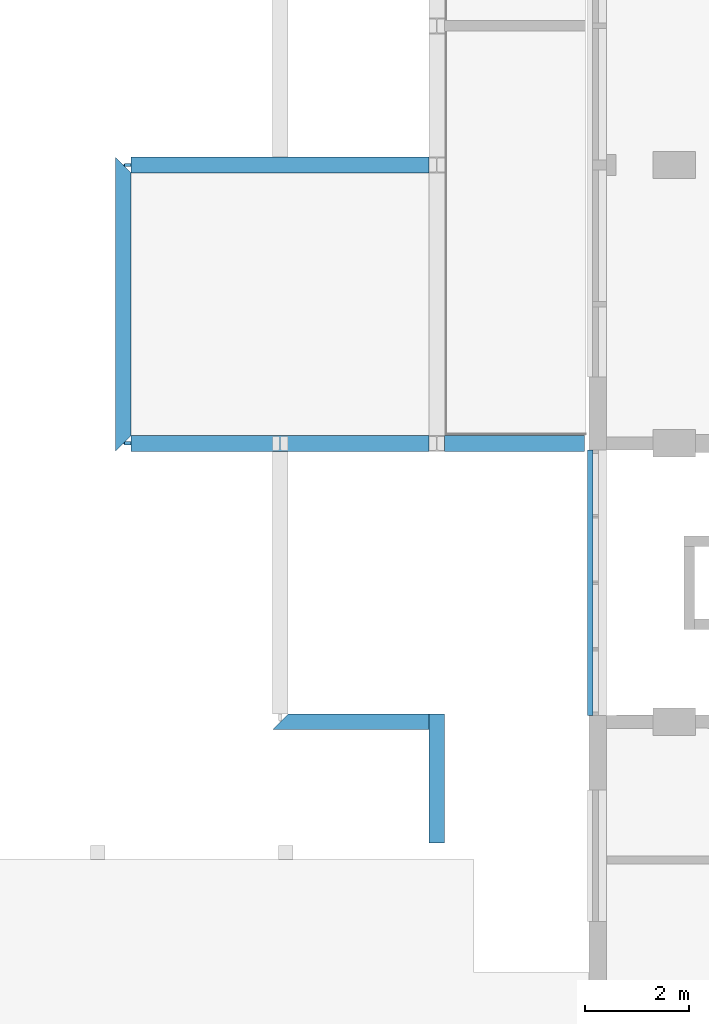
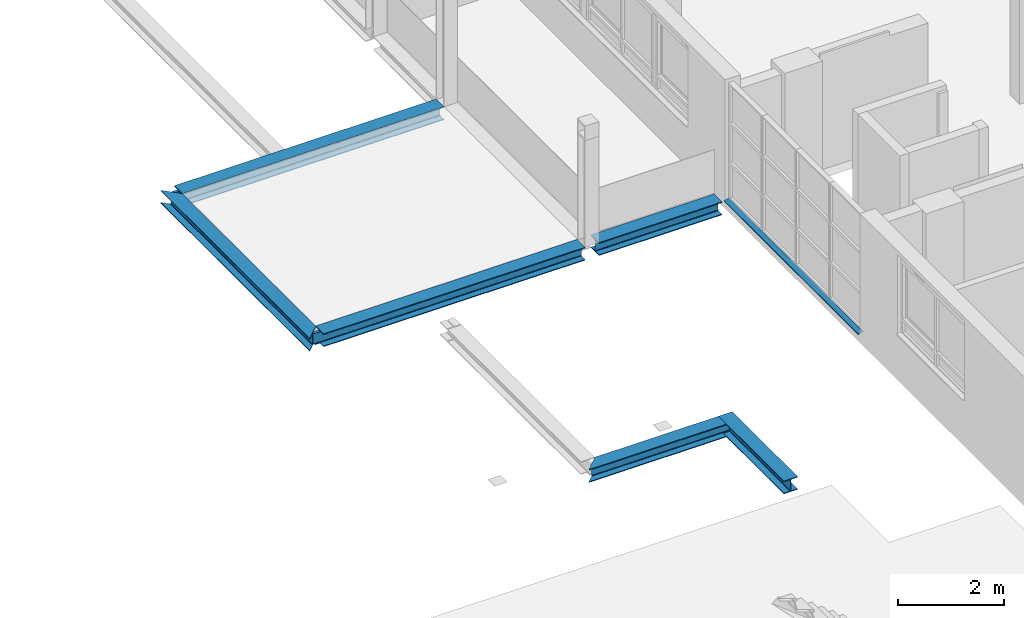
# One storey, part 6 of 22: 7 beams.
"""IFC2X3 building model written with IfcOpenShell, lengths in millimetres."""

from ifc_helpers import new_model, entity, si_unit, converted_unit, derived_unit, money_unit, direction, frame, origin_with_axes, place, context, subcontext, project, spatial, faceted_brep, material, type_object, element, save


model = new_model("IFC2X3")

# Units and contexts
model_context = context("Model", 3, precision=0.01, world=origin_with_axes(), true_north=direction((0.0, 1.0)))
body_context = subcontext(model_context, "Body", "Model", "MODEL_VIEW")
ifc_project = project(units=[si_unit("LENGTHUNIT", "METRE", prefix="MILLI"), si_unit("AREAUNIT", "SQUARE_METRE"), si_unit("VOLUMEUNIT", "CUBIC_METRE"), converted_unit("PLANEANGLEUNIT", "DEGREE", entity("IfcPlaneAngleMeasure", 0.0174532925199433), si_unit("PLANEANGLEUNIT", "RADIAN"), dimensions=[0, 0, 0, 0, 0, 0, 0]), money_unit("EUR"), converted_unit("TIMEUNIT", "Year", entity("IfcTimeMeasure", 31557600.0), si_unit("TIMEUNIT", "SECOND"), dimensions=[0, 0, 1, 0, 0, 0, 0]), si_unit("MASSUNIT", "GRAM", prefix="KILO"), si_unit("THERMODYNAMICTEMPERATUREUNIT", "DEGREE_CELSIUS"), si_unit("LUMINOUSINTENSITYUNIT", "LUMEN"), si_unit("ENERGYUNIT", "JOULE", prefix="MEGA"), derived_unit("THERMALCONDUCTANCEUNIT", [(si_unit("POWERUNIT", "WATT"), 1), (si_unit("LENGTHUNIT", "METRE"), -1), (si_unit("THERMODYNAMICTEMPERATUREUNIT", "KELVIN"), -1)]), derived_unit("SPECIFICHEATCAPACITYUNIT", [(si_unit("ENERGYUNIT", "JOULE"), 1), (si_unit("MASSUNIT", "GRAM", prefix="KILO"), -1), (si_unit("THERMODYNAMICTEMPERATUREUNIT", "KELVIN"), -1)]), derived_unit("MASSDENSITYUNIT", [(si_unit("MASSUNIT", "GRAM", prefix="KILO"), 1), (si_unit("VOLUMEUNIT", "CUBIC_METRE"), -1)])], contexts=[model_context])

# Site, building, storey
site_placement = place(None, origin_with_axes())
site = spatial("IfcSite", under=ifc_project, at=site_placement, Name="Site", CompositionType="ELEMENT")
building_placement = place(site_placement, origin_with_axes())
building = spatial("IfcBuilding", under=site, at=building_placement, Name="Naam gebouw", CompositionType="ELEMENT")
storey_placement = place(building_placement, frame((0.0, 0.0, 8690.0), z_axis=(0.0, 0.0, 1.0), x_axis=(1.0, 0.0, 0.0)))
storey = spatial("IfcBuildingStorey", under=building, at=storey_placement, Name="2e verdieping V", CompositionType="ELEMENT", Elevation=8690.0)

# Beams
ifc_material_1 = material(Name="Metaal - Aluminium")
beam_type_1 = type_object("IfcBeamType", Name="Lekdorpel 107 x 49", PredefinedType="BEAM")
beam_1_placement = place(storey_placement, frame((20206.00000000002, 27830.91242510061, 0.0), z_axis=(0.0, 0.0, 1.0), x_axis=(-1.0, 0.0, 0.0)))
element("IfcBeam", 1, at=beam_1_placement, inside=storey, type_object=beam_type_1, material=ifc_material_1, Name="_Balk-x", ObjectType="BEAM", context=body_context, shape_type="Brep", body=[
    faceted_brep([(27.99999999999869, 0.0, -1.678199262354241), (27.99999999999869, 5080.000000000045, -1.678199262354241), (27.99999999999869, 5080.000000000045, -16.53589838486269), (27.99999999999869, 0.0, -16.53589838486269), (-77.00000000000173, 0.0, 16.83613371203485), (-77.00000000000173, 5080.000000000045, 16.83613371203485), (-77.00000000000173, 5080.000000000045, 28.51433297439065), (-74.99999999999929, 5080.000000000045, 28.51433297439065), (-74.99999999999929, 5080.000000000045, 18.51433297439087), (30.00000000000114, 5080.000000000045, 0.0), (30.00000000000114, 5080.000000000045, -19.99999999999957), (19.99999999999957, 5080.000000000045, -14.22649730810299), (19.99999999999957, 5080.000000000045, -11.91709623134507), (19.99999999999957, 0.0, -11.91709623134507), (19.99999999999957, 0.0, -14.22649730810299), (30.00000000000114, 0.0, -19.99999999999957), (30.00000000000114, 0.0, 0.0), (-74.99999999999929, 0.0, 18.51433297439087), (-74.99999999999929, 0.0, 28.51433297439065), (-77.00000000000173, 0.0, 28.51433297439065)], [[[0, 1, 2, 3]], [[4, 5, 1, 0]], [[2, 1, 5, 6, 7, 8, 9, 10, 11, 12]], [[3, 2, 12, 13]], [[4, 0, 3, 13, 14, 15, 16, 17, 18, 19]], [[19, 6, 5, 4]], [[18, 7, 6, 19]], [[17, 8, 7, 18]], [[16, 9, 8, 17]], [[15, 10, 9, 16]], [[14, 11, 10, 15]], [[13, 12, 11, 14]]]),
])
ifc_material_2 = material(Name="staal geanodiseerd RAL 7024")
beam_type_2 = type_object("IfcBeamType", Name="NLRS_28_SF_LIB_balk HE_generiek_ISR:balk HE_gen_HEB300", PredefinedType="BEAM")
beam_2_placement = place(storey_placement, frame((20122.00000005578, 27955.91242634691, -150.0000000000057), z_axis=(0.0, 0.0, 1.0), x_axis=(0.0, 1.0, 0.0)))
element("IfcBeam", 2, at=beam_2_placement, inside=storey, type_object=beam_type_2, material=ifc_material_2, Name="NLRS_28_SF_LIB_balk HE_generiek_ISR:balk HE_gen_HEB300", ObjectType="BEAM", context=body_context, shape_type="Brep", body=[
    faceted_brep([(-150.0000000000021, 0.0, 150.0000000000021), (-150.0000000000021, 2679.999999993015, 150.0000000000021), (-150.0000000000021, 2679.999999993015, 131.000000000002), (-150.0000000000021, 0.0, 131.000000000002), (149.9999999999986, 0.0, 150.0000000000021), (149.9999999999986, 2679.999999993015, 150.0000000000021), (149.9999999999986, 2679.999999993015, 131.000000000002), (32.50000000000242, 2679.999999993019, 131.000000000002), (19.0000000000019, 2679.999999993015, 127.382685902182), (9.11731409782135, 2679.999999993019, 117.5000000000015), (5.49999999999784, 2679.999999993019, 104.000000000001), (5.49999999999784, 2679.999999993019, -103.9999999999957), (9.11731409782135, 2679.999999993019, -117.4999999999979), (19.0000000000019, 2679.999999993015, -127.3826859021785), (32.50000000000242, 2679.999999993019, -130.9999999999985), (149.9999999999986, 2679.999999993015, -130.9999999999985), (149.9999999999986, 2679.999999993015, -149.9999999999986), (-150.0000000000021, 2679.999999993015, -149.9999999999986), (-150.0000000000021, 2679.999999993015, -130.9999999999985), (-32.50000000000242, 2679.999999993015, -130.9999999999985), (-19.0000000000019, 2679.999999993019, -127.3826859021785), (-9.11731409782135, 2679.999999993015, -117.4999999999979), (-5.500000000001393, 2679.999999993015, -103.9999999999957), (-5.500000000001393, 2679.999999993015, 104.000000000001), (-9.11731409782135, 2679.999999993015, 117.5000000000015), (-19.0000000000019, 2679.999999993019, 127.382685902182), (-32.50000000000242, 2679.999999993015, 131.000000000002), (-32.50000000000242, 0.0, 131.000000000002), (-19.0000000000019, 0.0, 127.382685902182), (-9.11731409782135, 0.0, 117.5000000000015), (-5.500000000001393, 0.0, 104.000000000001), (-5.500000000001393, 0.0, -103.9999999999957), (-9.11731409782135, 0.0, -117.4999999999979), (-19.0000000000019, 0.0, -127.3826859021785), (-32.50000000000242, 0.0, -130.9999999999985), (-150.0000000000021, 0.0, -130.9999999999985), (-150.0000000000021, 0.0, -149.9999999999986), (149.9999999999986, 0.0, -149.9999999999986), (149.9999999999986, 0.0, -130.9999999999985), (32.50000000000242, 0.0, -130.9999999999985), (19.0000000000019, 0.0, -127.3826859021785), (9.11731409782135, 0.0, -117.4999999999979), (5.49999999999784, 0.0, -103.9999999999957), (5.49999999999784, 0.0, 104.000000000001), (9.11731409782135, 0.0, 117.5000000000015), (19.0000000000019, 0.0, 127.382685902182), (32.50000000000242, 0.0, 131.000000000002), (149.9999999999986, 0.0, 131.000000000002)], [[[0, 1, 2, 3]], [[4, 5, 1, 0]], [[2, 1, 5, 6, 7, 8, 9, 10, 11, 12, 13, 14, 15, 16, 17, 18, 19, 20, 21, 22, 23, 24, 25, 26]], [[3, 2, 26, 27]], [[4, 0, 3, 27, 28, 29, 30, 31, 32, 33, 34, 35, 36, 37, 38, 39, 40, 41, 42, 43, 44, 45, 46, 47]], [[47, 6, 5, 4]], [[46, 7, 6, 47]], [[45, 8, 7, 46]], [[44, 9, 8, 45]], [[43, 10, 9, 44]], [[42, 11, 10, 43]], [[41, 12, 11, 42]], [[40, 13, 12, 41]], [[39, 14, 13, 40]], [[38, 15, 14, 39]], [[37, 16, 15, 38]], [[36, 17, 16, 37]], [[35, 18, 17, 36]], [[34, 19, 18, 35]], [[33, 20, 19, 34]], [[32, 21, 20, 33]], [[31, 22, 21, 32]], [[30, 23, 22, 31]], [[29, 24, 23, 30]], [[28, 25, 24, 29]], [[27, 26, 25, 28]]]),
])
beam_3_placement = place(storey_placement, frame((17441.99999997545, 22625.91242638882, -990.0000000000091), z_axis=(0.0, 0.0, 1.0), x_axis=(0.0, 1.0, 0.0)))
element("IfcBeam", 3, at=beam_3_placement, inside=storey, type_object=beam_type_2, material=ifc_material_2, Name="NLRS_28_SF_LIB_balk HE_generiek_ISR:balk HE_gen_HEB300", ObjectType="BEAM", context=body_context, shape_type="Brep", body=[
    faceted_brep([(-32.50000000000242, 3179.869470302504, -130.9999999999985), (-150.0000000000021, 3297.36947026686, -130.9999999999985), (-150.0000000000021, 299.9999999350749, -130.9999999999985), (-32.50000000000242, 299.9999999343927, -130.9999999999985), (-150.0000000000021, 3297.36947026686, -149.9999999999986), (-19.0000000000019, 3166.36947030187, -127.3826859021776), (-9.11731409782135, 3156.486784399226, -117.499999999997), (-5.500000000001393, 3152.869470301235, -103.9999999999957), (-5.500000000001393, 3152.869470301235, 104.0000000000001), (-9.11731409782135, 3156.486784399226, 117.5000000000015), (-19.0000000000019, 3166.36947030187, 127.382685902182), (-32.50000000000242, 3179.869470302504, 131.0000000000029), (-150.0000000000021, 3297.36947026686, 131.0000000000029), (-150.0000000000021, 3297.36947026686, 150.000000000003), (149.999999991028, 2997.369470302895, 150.000000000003), (149.999999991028, 2997.369470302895, 131.0000000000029), (32.50000000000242, 3114.869470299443, 131.0000000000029), (19.0000000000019, 3128.369470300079, 127.382685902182), (9.11731409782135, 3138.252156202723, 117.5000000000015), (5.49999999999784, 3141.869470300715, 104.0000000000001), (5.49999999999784, 3141.869470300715, -103.9999999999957), (9.11731409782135, 3138.252156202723, -117.499999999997), (19.0000000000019, 3128.369470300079, -127.3826859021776), (32.50000000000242, 3114.869470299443, -130.9999999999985), (149.999999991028, 2997.369470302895, -130.9999999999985), (149.999999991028, 2997.369470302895, -149.9999999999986), (-150.0000000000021, 299.9999999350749, -149.9999999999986), (149.9999999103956, 299.9999999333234, -149.9999999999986), (149.9999999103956, 299.9999999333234, -130.9999999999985), (32.50000000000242, 299.9999999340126, -130.9999999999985), (-32.50000000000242, 182.499999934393, -130.9999999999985), (-19.0000000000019, 168.9999999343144, -127.3826859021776), (-9.117314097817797, 159.1173140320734, -117.499999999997), (-5.500000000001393, 155.4999999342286, -103.9999999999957), (-5.500000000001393, 155.4999999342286, 104.0000000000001), (-9.11731409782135, 159.1173140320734, 117.5000000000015), (-19.0000000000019, 168.9999999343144, 127.382685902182), (-32.50000000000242, 182.499999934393, 131.0000000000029), (-32.50000000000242, 299.9999999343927, 131.0000000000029), (-150.0000000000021, 299.9999999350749, 131.0000000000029), (-150.0000000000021, 299.9999999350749, 150.000000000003), (149.9999999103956, 299.9999999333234, 150.000000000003), (149.9999999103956, 299.9999999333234, 131.0000000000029), (32.50000000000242, 299.9999999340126, 131.0000000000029), (32.50000000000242, 182.4999999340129, 131.0000000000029), (19.0000000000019, 168.9999999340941, 127.382685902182), (9.11731409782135, 159.1173140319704, 117.5000000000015), (5.49999999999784, 155.4999999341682, 104.0000000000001), (5.49999999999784, 155.4999999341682, -103.9999999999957), (9.11731409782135, 159.1173140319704, -117.499999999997), (19.0000000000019, 168.9999999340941, -127.3826859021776), (32.50000000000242, 182.4999999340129, -130.9999999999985)], [[[0, 1, 2, 3]], [[4, 1, 0, 5, 6, 7, 8, 9, 10, 11, 12, 13, 14, 15, 16, 17, 18, 19, 20, 21, 22, 23, 24, 25]], [[1, 4, 26, 2]], [[2, 26, 27, 28, 29, 3]], [[5, 0, 3, 30, 31]], [[6, 5, 31, 32]], [[7, 6, 32, 33]], [[8, 7, 33, 34]], [[9, 8, 34, 35]], [[10, 9, 35, 36]], [[11, 10, 36, 37, 38]], [[12, 11, 38, 39]], [[13, 12, 39, 40]], [[14, 13, 40, 41]], [[14, 41, 42, 15]], [[16, 15, 42, 43]], [[17, 16, 43, 44, 45]], [[18, 17, 45, 46]], [[19, 18, 46, 47]], [[20, 19, 47, 48]], [[21, 20, 48, 49]], [[22, 21, 49, 50]], [[23, 22, 50, 51, 29]], [[24, 23, 29, 28]], [[27, 25, 24, 28]], [[26, 4, 25, 27]], [[30, 3, 29, 51]], [[31, 30, 51, 50]], [[32, 31, 50, 49]], [[33, 32, 49, 48]], [[48, 47, 34, 33]], [[35, 34, 47, 46]], [[36, 35, 46, 45]], [[37, 36, 45, 44]], [[38, 37, 44, 43]], [[39, 38, 43, 42, 41, 40]]]),
    faceted_brep([(19.0000000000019, 0.0, 127.382685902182), (19.0000000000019, 130.9999999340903, 127.382685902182), (32.50000000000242, 117.4999999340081, 131.0000000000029), (32.50000000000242, -6.59916565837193e-08, 131.0000000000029), (9.11731409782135, 0.0, 117.5000000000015), (9.11731409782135, 140.8826858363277, 117.5000000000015), (-32.50000000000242, 117.4999999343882, 131.0000000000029), (-19.0000000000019, 130.9999999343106, 127.382685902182), (-32.50000000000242, -6.561151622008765e-08, 131.0000000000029), (-19.0000000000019, 0.0, -127.3826859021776), (-32.50000000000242, -6.561151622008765e-08, -130.9999999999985), (32.50000000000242, -6.59916565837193e-08, -130.9999999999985), (19.0000000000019, 0.0, -127.3826859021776), (9.11731409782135, 0.0, -117.499999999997), (5.49999999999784, 0.0, -103.9999999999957), (5.49999999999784, 0.0, 104.0000000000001), (-19.0000000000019, 0.0, 127.382685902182), (-9.11731409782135, 0.0, 117.5000000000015), (-5.500000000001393, 0.0, 104.0000000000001), (-5.500000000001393, 0.0, -103.9999999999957), (-9.11731409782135, 0.0, -117.499999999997), (5.49999999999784, 144.499999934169, 104.0000000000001), (-9.11731409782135, 140.8826858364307, 117.5000000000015), (-19.0000000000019, 130.9999999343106, -127.3826859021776), (-32.50000000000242, 117.4999999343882, -130.9999999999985), (32.50000000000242, 117.4999999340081, -130.9999999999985), (19.0000000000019, 130.9999999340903, -127.3826859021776), (9.11731409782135, 140.8826858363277, -117.499999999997), (5.49999999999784, 144.499999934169, -103.9999999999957), (-5.500000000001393, 144.4999999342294, 104.0000000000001), (-5.500000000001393, 144.4999999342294, -103.9999999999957), (-9.11731409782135, 140.8826858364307, -117.499999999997)], [[[0, 1, 2, 3]], [[4, 5, 1, 0]], [[6, 2, 1, 7]], [[6, 8, 3, 2]], [[9, 10, 11, 12, 13, 14, 15, 4, 0, 3, 8, 16, 17, 18, 19, 20]], [[15, 21, 5, 4]], [[7, 1, 5, 22]], [[8, 6, 7, 16]], [[23, 24, 10, 9]], [[24, 25, 11, 10]], [[11, 25, 26, 12]], [[12, 26, 27, 13]], [[13, 27, 28, 14]], [[14, 28, 21, 15]], [[16, 7, 22, 17]], [[17, 22, 29, 18]], [[18, 29, 30, 19]], [[19, 30, 31, 20]], [[20, 31, 23, 9]], [[22, 5, 21, 29]], [[23, 26, 25, 24]], [[31, 27, 26, 23]], [[30, 28, 27, 31]], [[29, 21, 28, 30]]]),
])
beam_4_placement = place(storey_placement, frame((17292.00000003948, 22775.91242629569, -990.0000000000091), z_axis=(0.0, 0.0, 1.0), x_axis=(-1.0, 0.0, 0.0)))
element("IfcBeam", 4, at=beam_4_placement, inside=storey, type_object=beam_type_2, material=ifc_material_2, Name="NLRS_28_SF_LIB_balk HE_generiek_ISR:balk HE_gen_HEB300", ObjectType="BEAM", context=body_context, shape_type="Brep", body=[
    faceted_brep([(-150.0000000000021, 0.0, 150.000000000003), (-150.0000000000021, 2465.028027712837, 150.000000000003), (-150.0000000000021, 2465.028027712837, 131.0000000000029), (-150.0000000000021, 0.0, 131.0000000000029), (149.9999999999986, 0.0, 150.000000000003), (149.9999999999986, 2465.028027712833, 150.000000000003), (149.9999999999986, 2465.028027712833, 131.0000000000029), (32.50000000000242, 2465.028027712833, 131.0000000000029), (19.0000000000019, 2465.028027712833, 127.382685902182), (9.11731409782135, 2465.028027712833, 117.5000000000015), (5.49999999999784, 2465.028027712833, 104.0000000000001), (5.49999999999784, 2465.028027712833, -103.9999999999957), (9.11731409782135, 2465.028027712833, -117.499999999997), (19.0000000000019, 2465.028027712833, -127.3826859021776), (32.50000000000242, 2465.028027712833, -130.9999999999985), (149.9999999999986, 2465.028027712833, -130.9999999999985), (149.9999999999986, 2465.028027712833, -149.9999999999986), (-150.0000000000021, 2465.028027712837, -149.9999999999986), (-150.0000000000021, 2465.028027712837, -130.9999999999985), (-32.50000000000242, 2465.028027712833, -130.9999999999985), (-19.0000000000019, 2465.028027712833, -127.3826859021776), (-9.11731409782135, 2465.028027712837, -117.499999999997), (-5.500000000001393, 2465.028027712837, -103.9999999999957), (-5.500000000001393, 2465.028027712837, 104.0000000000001), (-9.11731409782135, 2465.028027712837, 117.5000000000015), (-19.0000000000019, 2465.028027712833, 127.382685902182), (-32.50000000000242, 2465.028027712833, 131.0000000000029), (-32.50000000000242, 0.0, 131.0000000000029), (-19.0000000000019, 0.0, 127.382685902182), (-9.11731409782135, 0.0, 117.5000000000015), (-5.500000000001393, 0.0, 104.0000000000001), (-5.500000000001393, 0.0, -103.9999999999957), (-9.11731409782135, 0.0, -117.499999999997), (-19.0000000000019, 0.0, -127.3826859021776), (-32.50000000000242, 0.0, -130.9999999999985), (-150.0000000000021, 0.0, -130.9999999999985), (-150.0000000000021, 0.0, -149.9999999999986), (149.9999999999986, 0.0, -149.9999999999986), (149.9999999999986, 0.0, -130.9999999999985), (32.50000000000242, 0.0, -130.9999999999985), (19.0000000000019, 0.0, -127.3826859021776), (9.11731409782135, 0.0, -117.499999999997), (5.49999999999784, 0.0, -103.9999999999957), (5.49999999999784, 0.0, 104.0000000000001), (9.11731409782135, 0.0, 117.5000000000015), (19.0000000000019, 0.0, 127.382685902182), (32.50000000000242, 0.0, 131.0000000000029), (149.9999999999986, 0.0, 131.0000000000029)], [[[0, 1, 2, 3]], [[4, 5, 1, 0]], [[2, 1, 5, 6, 7, 8, 9, 10, 11, 12, 13, 14, 15, 16, 17, 18, 19, 20, 21, 22, 23, 24, 25, 26]], [[3, 2, 26, 27]], [[4, 0, 3, 27, 28, 29, 30, 31, 32, 33, 34, 35, 36, 37, 38, 39, 40, 41, 42, 43, 44, 45, 46, 47]], [[47, 6, 5, 4]], [[46, 7, 6, 47]], [[45, 8, 7, 46]], [[44, 9, 8, 45]], [[43, 10, 9, 44]], [[42, 11, 10, 43]], [[41, 12, 11, 42]], [[40, 13, 12, 41]], [[39, 14, 13, 40]], [[38, 15, 14, 39]], [[37, 16, 15, 38]], [[36, 17, 16, 37]], [[35, 18, 17, 36]], [[34, 19, 18, 35]], [[33, 20, 19, 34]], [[32, 21, 20, 33]], [[31, 22, 21, 32]], [[30, 23, 22, 31]], [[29, 24, 23, 30]], [[28, 25, 24, 29]], [[27, 26, 25, 28]]]),
])
beam_5_placement = place(storey_placement, frame((17142.0000000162, 33285.912426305, -150.0000000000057), z_axis=(0.0, 0.0, 1.0), x_axis=(0.0, 1.0, 0.0)))
element("IfcBeam", 5, at=beam_5_placement, inside=storey, type_object=beam_type_2, material=ifc_material_2, Name="NLRS_28_SF_LIB_balk HE_generiek_ISR:balk HE_gen_HEB300", ObjectType="BEAM", context=body_context, shape_type="Brep", body=[
    faceted_brep([(149.9999999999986, 0.0, 131.000000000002), (150.0000000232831, 5699.999999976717, 131.000000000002), (150.0000000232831, 5699.999999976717, 150.0000000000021), (149.9999999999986, 0.0, 150.0000000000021), (32.49999999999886, 0.0, 131.000000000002), (32.49999999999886, 5699.999999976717, 131.000000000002), (-149.9999999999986, 5699.999999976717, 131.000000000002), (-149.9999999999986, 5699.999999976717, 150.0000000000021), (-32.50000000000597, 5699.999999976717, 131.000000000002), (-149.9999999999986, 0.0, 150.0000000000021), (-149.9999999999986, 0.0, 131.000000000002), (-32.50000000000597, 0.0, 131.000000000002), (-18.99999999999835, 0.0, 127.382685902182), (-9.11731409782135, 0.0, 117.5000000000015), (-5.49999999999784, 0.0, 104.000000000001), (-5.49999999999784, 0.0, -103.9999999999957), (-9.11731409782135, 0.0, -117.4999999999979), (-18.99999999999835, 0.0, -127.3826859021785), (-32.50000000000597, 0.0, -130.9999999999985), (-149.9999999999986, 0.0, -130.9999999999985), (-149.9999999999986, 0.0, -149.9999999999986), (149.9999999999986, 0.0, -149.9999999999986), (149.9999999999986, 0.0, -130.9999999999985), (32.49999999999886, 0.0, -130.9999999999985), (18.99999999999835, 0.0, -127.3826859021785), (9.11731409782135, 0.0, -117.4999999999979), (5.49999999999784, 0.0, -103.9999999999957), (5.49999999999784, 0.0, 104.000000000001), (9.11731409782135, 0.0, 117.5000000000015), (18.99999999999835, 0.0, 127.382685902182), (18.99999999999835, 5830.999999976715, 127.382685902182), (32.49999999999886, 5817.499999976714, 131.000000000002), (-32.50000000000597, 5817.499999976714, 131.000000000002), (-18.99999999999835, 5830.999999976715, 127.382685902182), (-9.11731409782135, 5840.882685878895, 117.5000000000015), (-5.49999999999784, 5844.499999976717, 104.000000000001), (-5.49999999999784, 5844.499999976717, -103.9999999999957), (-9.11731409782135, 5840.882685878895, -117.4999999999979), (-18.99999999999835, 5830.999999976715, -127.3826859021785), (-32.50000000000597, 5817.499999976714, -130.9999999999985), (-32.50000000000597, 5699.999999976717, -130.9999999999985), (-149.9999999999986, 5699.999999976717, -130.9999999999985), (-149.9999999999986, 5699.999999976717, -149.9999999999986), (150.0000000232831, 5699.999999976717, -149.9999999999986), (150.0000000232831, 5699.999999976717, -130.9999999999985), (32.49999999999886, 5699.999999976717, -130.9999999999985), (32.49999999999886, 5817.499999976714, -130.9999999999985), (18.99999999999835, 5830.999999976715, -127.3826859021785), (9.11731409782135, 5840.882685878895, -117.4999999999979), (5.49999999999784, 5844.499999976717, -103.9999999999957), (5.49999999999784, 5844.499999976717, 104.000000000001), (9.11731409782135, 5840.882685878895, 117.5000000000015)], [[[0, 1, 2, 3]], [[4, 5, 1, 0]], [[6, 7, 2, 1, 5, 8]], [[3, 2, 7, 9]], [[0, 3, 9, 10, 11, 12, 13, 14, 15, 16, 17, 18, 19, 20, 21, 22, 23, 24, 25, 26, 27, 28, 29, 4]], [[30, 31, 5, 4, 29]], [[9, 7, 6, 10]], [[8, 5, 31, 32]], [[10, 6, 8, 11]], [[8, 32, 33, 12, 11]], [[12, 33, 34, 13]], [[13, 34, 35, 14]], [[14, 35, 36, 15]], [[15, 36, 37, 16]], [[16, 37, 38, 17]], [[38, 39, 40, 18, 17]], [[18, 40, 41, 19]], [[19, 41, 42, 20]], [[20, 42, 43, 21]], [[21, 43, 44, 22]], [[22, 44, 45, 23]], [[45, 46, 47, 24, 23]], [[24, 47, 48, 25]], [[25, 48, 49, 26]], [[26, 49, 50, 27]], [[27, 50, 51, 28]], [[28, 51, 30, 29]], [[32, 31, 30, 33]], [[33, 30, 51, 34]], [[34, 51, 50, 35]], [[35, 50, 49, 36]], [[36, 49, 48, 37]], [[37, 48, 47, 38]], [[38, 47, 46, 39]], [[39, 46, 45, 40]], [[40, 45, 44, 43, 42, 41]]]),
])
beam_6_placement = place(storey_placement, frame((17142.0000000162, 27955.91242634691, -150.0000000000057), z_axis=(0.0, 0.0, 1.0), x_axis=(0.0, 1.0, 0.0)))
element("IfcBeam", 6, at=beam_6_placement, inside=storey, type_object=beam_type_2, material=ifc_material_2, Name="NLRS_28_SF_LIB_balk HE_generiek_ISR:balk HE_gen_HEB300", ObjectType="BEAM", context=body_context, shape_type="Brep", body=[
    faceted_brep([(149.9999999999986, 0.0, 131.000000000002), (150.0000000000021, 5699.999999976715, 131.000000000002), (150.0000000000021, 5699.999999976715, 150.0000000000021), (149.9999999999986, 0.0, 150.0000000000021), (32.50000000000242, 0.0, 131.000000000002), (32.50000000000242, 5699.999999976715, 131.000000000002), (-150.0000000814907, 5699.999999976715, 131.000000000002), (-150.0000000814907, 5699.999999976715, 150.0000000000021), (-32.50000000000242, 5699.999999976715, 131.000000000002), (-150.0000000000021, 0.0, 150.0000000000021), (-150.0000000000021, 0.0, 131.000000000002), (-32.50000000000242, 0.0, 131.000000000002), (-19.0000000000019, 0.0, 127.382685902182), (-9.11731409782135, 0.0, 117.5000000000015), (-5.500000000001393, 0.0, 104.000000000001), (-5.500000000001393, 0.0, -103.9999999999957), (-9.11731409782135, 0.0, -117.4999999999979), (-19.0000000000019, 0.0, -127.3826859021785), (-32.50000000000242, 0.0, -130.9999999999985), (-150.0000000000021, 0.0, -130.9999999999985), (-150.0000000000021, 0.0, -149.9999999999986), (149.9999999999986, 0.0, -149.9999999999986), (149.9999999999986, 0.0, -130.9999999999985), (32.50000000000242, 0.0, -130.9999999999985), (19.0000000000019, 0.0, -127.3826859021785), (9.11731409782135, 0.0, -117.4999999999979), (5.49999999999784, 0.0, -103.9999999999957), (5.49999999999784, 0.0, 104.000000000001), (9.11731409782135, 0.0, 117.5000000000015), (19.0000000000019, 0.0, 127.382685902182), (19.0000000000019, 5830.999999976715, 127.382685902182), (32.50000000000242, 5817.499999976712, 131.000000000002), (-32.50000000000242, 5817.499999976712, 131.000000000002), (-19.0000000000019, 5830.999999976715, 127.382685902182), (-9.11731409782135, 5840.882685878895, 117.5000000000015), (-5.500000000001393, 5844.499999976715, 104.000000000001), (-5.500000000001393, 5844.499999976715, -103.9999999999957), (-9.11731409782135, 5840.882685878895, -117.4999999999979), (-19.0000000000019, 5830.999999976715, -127.3826859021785), (-32.50000000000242, 5817.499999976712, -130.9999999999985), (-32.50000000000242, 5699.999999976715, -130.9999999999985), (-150.0000000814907, 5699.999999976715, -130.9999999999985), (-150.0000000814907, 5699.999999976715, -149.9999999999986), (149.9999999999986, 5699.999999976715, -149.9999999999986), (149.9999999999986, 5699.999999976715, -130.9999999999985), (32.50000000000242, 5699.999999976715, -130.9999999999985), (32.50000000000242, 5817.499999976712, -130.9999999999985), (19.0000000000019, 5830.999999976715, -127.3826859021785), (9.11731409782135, 5840.882685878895, -117.4999999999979), (5.500000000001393, 5844.499999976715, -103.9999999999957), (5.500000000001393, 5844.499999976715, 104.000000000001), (9.11731409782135, 5840.882685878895, 117.5000000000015)], [[[0, 1, 2, 3]], [[4, 5, 1, 0]], [[6, 7, 2, 1, 5, 8]], [[3, 2, 7, 9]], [[0, 3, 9, 10, 11, 12, 13, 14, 15, 16, 17, 18, 19, 20, 21, 22, 23, 24, 25, 26, 27, 28, 29, 4]], [[30, 31, 5, 4, 29]], [[9, 7, 6, 10]], [[8, 5, 31, 32]], [[10, 6, 8, 11]], [[8, 32, 33, 12, 11]], [[12, 33, 34, 13]], [[13, 34, 35, 14]], [[14, 35, 36, 15]], [[15, 36, 37, 16]], [[16, 37, 38, 17]], [[38, 39, 40, 18, 17]], [[18, 40, 41, 19]], [[19, 41, 42, 20]], [[20, 42, 43, 21]], [[21, 43, 44, 22]], [[22, 44, 45, 23]], [[45, 46, 47, 24, 23]], [[24, 47, 48, 25]], [[25, 48, 49, 26]], [[26, 49, 50, 27]], [[27, 50, 51, 28]], [[28, 51, 30, 29]], [[32, 31, 30, 33]], [[33, 30, 51, 34]], [[34, 51, 50, 35]], [[35, 50, 49, 36]], [[36, 49, 48, 37]], [[37, 48, 47, 38]], [[38, 47, 46, 39]], [[39, 46, 45, 40]], [[40, 45, 44, 43, 42, 41]]]),
])
beam_7_placement = place(storey_placement, frame((11292.00000003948, 33435.91242632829, -150.0000000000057), z_axis=(0.0, 0.0, 1.0), x_axis=(-1.0, 0.0, 0.0)))
element("IfcBeam", 7, at=beam_7_placement, inside=storey, type_object=beam_type_2, material=ifc_material_2, Name="NLRS_28_SF_LIB_balk HE_generiek_ISR:balk HE_gen_HEB300", ObjectType="BEAM", context=body_context, shape_type="Brep", body=[
    faceted_brep([(19.00000000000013, 131.0000000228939, 127.382685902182), (19.00000000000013, 5499.000000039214, 127.382685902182), (32.50000000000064, 5512.500000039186, 131.000000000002), (32.50000000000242, 117.5000000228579, 131.000000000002), (9.117314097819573, 140.8826859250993, 117.5000000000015), (9.117314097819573, 5489.117314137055, 117.5000000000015), (149.9999999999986, 5630.000000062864, -130.9999999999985), (149.9999999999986, 5630.000000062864, -149.9999999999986), (-150.0000000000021, 5330.000000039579, -149.9999999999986), (-150.0000000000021, 5330.000000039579, -130.9999999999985), (-32.50000000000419, 5447.500000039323, -130.9999999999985), (-19.0000000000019, 5461.000000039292, -127.3826859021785), (-9.11731409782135, 5470.882685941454, -117.4999999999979), (-5.500000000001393, 5474.500000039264, -103.9999999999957), (-5.500000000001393, 5474.500000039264, 104.000000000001), (-9.11731409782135, 5470.882685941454, 117.5000000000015), (-19.0000000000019, 5461.000000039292, 127.382685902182), (-32.50000000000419, 5447.500000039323, 131.000000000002), (-150.0000000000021, 5330.000000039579, 131.000000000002), (-150.0000000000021, 5330.000000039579, 150.0000000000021), (149.9999999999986, 5630.000000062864, 150.0000000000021), (149.9999999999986, 5630.000000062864, 131.000000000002), (5.49999999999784, 5485.500000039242, 104.000000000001), (5.49999999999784, 5485.500000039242, -103.9999999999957), (9.117314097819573, 5489.117314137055, -117.4999999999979), (19.00000000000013, 5499.000000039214, -127.3826859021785), (32.50000000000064, 5512.500000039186, -130.9999999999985), (150.0000000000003, 0.0, 131.000000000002), (150.0000000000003, 0.0, 150.0000000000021), (-150.0000000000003, 300.0000000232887, 150.0000000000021), (-150.0000000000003, 300.0000000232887, 131.000000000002), (-32.50000000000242, 182.5000000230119, 131.000000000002), (-19.0000000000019, 169.000000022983, 127.382685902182), (-9.11731409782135, 159.1173141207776, 117.5000000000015), (-5.499999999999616, 155.5000000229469, 104.000000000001), (-5.499999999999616, 155.5000000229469, -103.9999999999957), (-9.11731409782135, 159.1173141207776, -117.4999999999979), (-19.0000000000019, 169.000000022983, -127.3826859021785), (-32.50000000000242, 182.5000000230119, -130.9999999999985), (-150.0000000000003, 300.0000000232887, -130.9999999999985), (-150.0000000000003, 300.0000000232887, -149.9999999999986), (150.0000000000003, 0.0, -149.9999999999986), (150.0000000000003, 0.0, -130.9999999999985), (32.50000000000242, 117.5000000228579, -130.9999999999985), (19.00000000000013, 131.0000000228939, -127.3826859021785), (9.117314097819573, 140.8826859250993, -117.4999999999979), (5.499999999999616, 144.50000002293, -103.9999999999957), (5.499999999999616, 144.50000002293, 104.000000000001)], [[[0, 1, 2, 3]], [[1, 0, 4, 5]], [[6, 7, 8, 9, 10, 11, 12, 13, 14, 15, 16, 17, 18, 19, 20, 21, 2, 1, 5, 22, 23, 24, 25, 26]], [[2, 21, 27, 3]], [[4, 0, 3, 27, 28, 29, 30, 31, 32, 33, 34, 35, 36, 37, 38, 39, 40, 41, 42, 43, 44, 45, 46, 47]], [[47, 22, 5, 4]], [[7, 6, 42, 41]], [[7, 41, 40, 8]], [[8, 40, 39, 9]], [[10, 9, 39, 38]], [[37, 11, 10, 38]], [[36, 12, 11, 37]], [[13, 12, 36, 35]], [[14, 13, 35, 34]], [[15, 14, 34, 33]], [[15, 33, 32, 16]], [[16, 32, 31, 17]], [[18, 17, 31, 30]], [[18, 30, 29, 19]], [[28, 20, 19, 29]], [[21, 20, 28, 27]], [[22, 47, 46, 23]], [[45, 24, 23, 46]], [[44, 25, 24, 45]], [[25, 44, 43, 26]], [[6, 26, 43, 42]]]),
])

save(model, "model.ifc")
